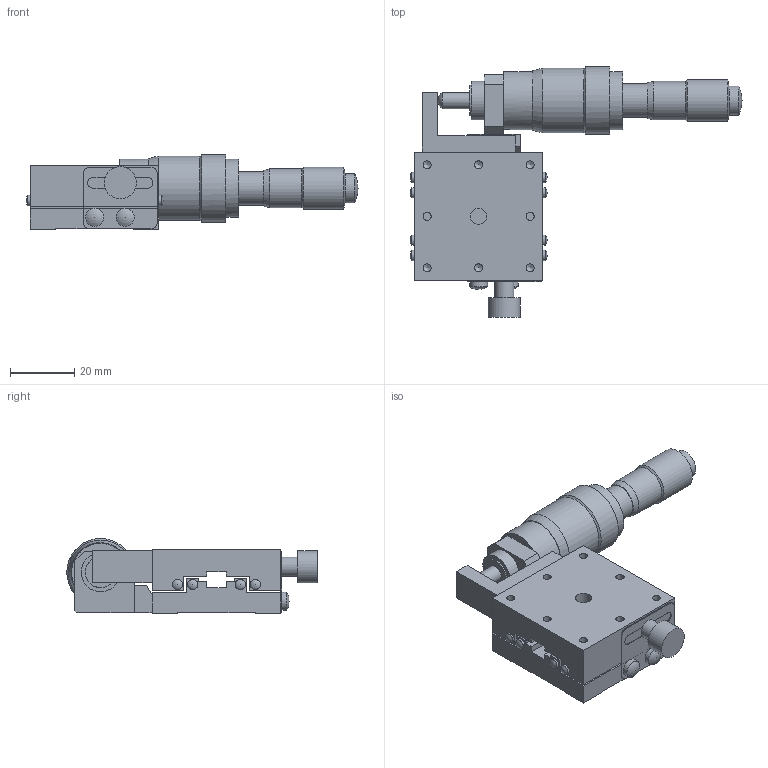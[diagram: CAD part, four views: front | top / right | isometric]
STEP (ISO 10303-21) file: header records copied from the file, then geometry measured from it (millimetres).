
FILE_DESCRIPTION( ( 'STEP AP214' ), '1' );
FILE_NAME( 'C:/Project/3D_B11-40DR-配布-070508.stp', '2007-05-08T10:42:02', ( ' ' ), ( ' ' ), 'XStep 1.0', ' ', ' ' );
FILE_SCHEMA( ( 'automotive_design' ) );
Length unit declared in the file: millimetre
Products named in the file (3): 1; 2; 3
Bounding box: 103.15 x 77.8 x 23.3 mm (x, y, z)
Volume: 49674.4 mm3; surface area: 21854.7 mm2
Topology: 3 solids, 3 shells, 170 faces, 445 edges, 295 vertices
Faces by surface type: plane 90, cylinder 57, sphere 12, cone 11
Full cylindrical faces by diameter (mm): 2.5 x16, 3 x1, 3.2 x8, 3.5 x4, 5 x3, 5.6 x2, 6 x5, 9 x1, 9.5 x1, 10 x1, 10.5 x2, 12 x2, 13 x1, 18 x2, 20 x1, 21 x1
Entity records: 5828 total; most frequent: DIRECTION 772, CARTESIAN_POINT 737, ORIENTED_EDGE 634, EDGE_CURVE 317, AXIS2_PLACEMENT_3D 282, EDGE_LOOP 276, VERTEX_POINT 247, FACE_OUTER_BOUND 221
